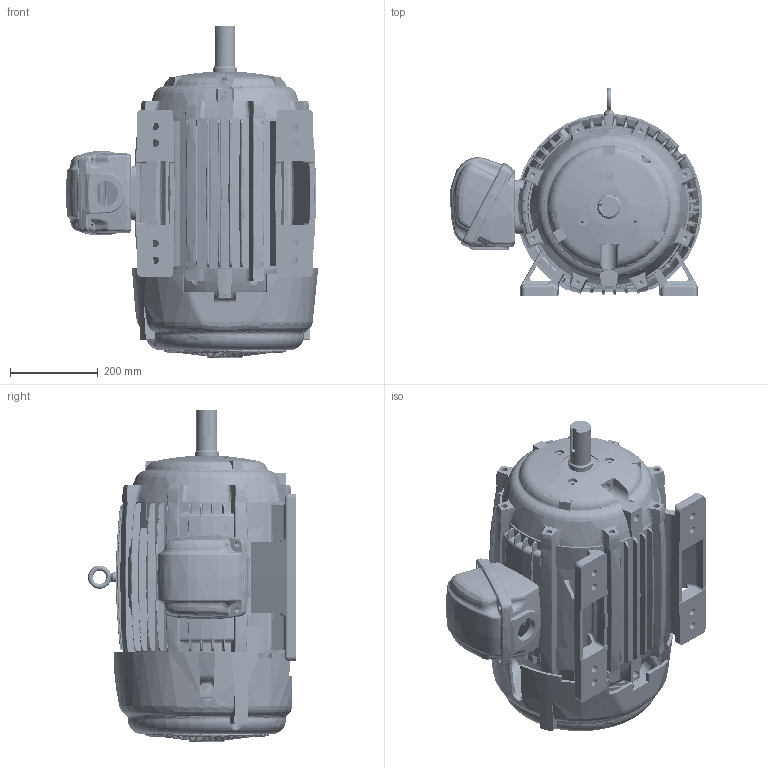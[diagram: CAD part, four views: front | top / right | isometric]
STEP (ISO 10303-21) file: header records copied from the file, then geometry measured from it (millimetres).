
FILE_DESCRIPTION((''),'2;1');
FILE_NAME('320_GP_ASSY_ASM','2014-06-26T',('NMC779F'),('Nidec Motor Corporation'),'PRO/ENGINEER BY PARAMETRIC TECHNOLOGY CORPORATION, 2013150','PRO/ENGINEER BY PARAMETRIC TECHNOLOGY CORPORATION, 2013150','');
FILE_SCHEMA(('CONFIG_CONTROL_DESIGN'));
Length unit declared in the file: inch
Products named in the file (11): 0459276; 0376463; 0376464; 0133166; 0165757; 0110307; 0116263; 0348537; 0557810; 0557809; 320_GP_ASSY_ASM
Assembly tree (10 placements, depth 2):
  320_GP_ASSY_ASM
    0459276
    0376463
    0376464
    0133166
    0165757
    0110307
    0116263
    0348537
    0557810
    0557809
Bounding box: 574.68 x 473.68 x 756.04 mm (x, y, z)
Volume: 19394827.7 mm3; surface area: 3665363.9 mm2
Topology: 12 solids, 12 shells, 5650 faces, 14337 edges, 8681 vertices
Faces by surface type: bspline 2864, plane 1061, cylinder 650, torus 444, cone 319, extrusion 199, sphere 71, revolution 42
Entity records: 284400 total; most frequent: CARTESIAN_POINT 172205, ORIENTED_EDGE 28572, DIRECTION 15446, EDGE_CURVE 14286, VERTEX_POINT 8681, B_SPLINE_CURVE_WITH_KNOTS 8127, AXIS2_PLACEMENT_3D 6239, EDGE_LOOP 5889
